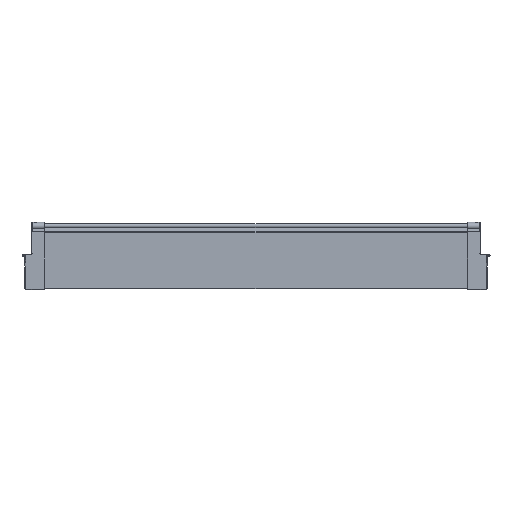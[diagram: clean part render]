
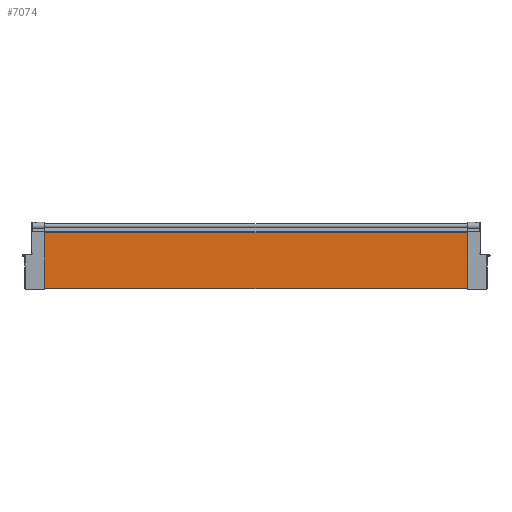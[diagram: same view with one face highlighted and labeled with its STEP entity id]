
A CAD part, top view. The second image highlights one B-rep face of the part: STEP entity #7074.
In plain terms, the highlighted planar face has unit normal (0, 0, 1).
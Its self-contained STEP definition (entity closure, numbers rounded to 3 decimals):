
#1766 = DIRECTION ( 'NONE',  ( 0., -1., 0. ) ) ;
#1767 = VECTOR ( 'NONE', #1766, 1000. ) ;
#1768 = CARTESIAN_POINT ( 'NONE',  ( -868.3, 45.248, 4.05 ) ) ;
#1769 = DIRECTION ( 'NONE',  ( 0., 1., 0. ) ) ;
#1770 = DIRECTION ( 'NONE',  ( 0., 0., -1. ) ) ;
#1771 = CARTESIAN_POINT ( 'NONE',  ( 89.157, 45.248, 4.05 ) ) ;
#1772 = AXIS2_PLACEMENT_3D ( 'NONE', #1771, #1770, #1769 ) ;
#1773 = PLANE ( 'NONE',  #1772 ) ;
#1774 = LINE ( 'NONE', #1768, #1767 ) ;
#1775 = FACE_OUTER_BOUND ( 'NONE', #7075, .T. ) ;
#1776 = DIRECTION ( 'NONE',  ( -1., 0., 0. ) ) ;
#1777 = VECTOR ( 'NONE', #1776, 1000. ) ;
#1778 = CARTESIAN_POINT ( 'NONE',  ( 89.157, 45.248, 4.05 ) ) ;
#1779 = LINE ( 'NONE', #1778, #1777 ) ;
#1803 = CARTESIAN_POINT ( 'NONE',  ( -868.3, 45.248, 4.05 ) ) ;
#1822 = DIRECTION ( 'NONE',  ( -1., 0., 0. ) ) ;
#1823 = VECTOR ( 'NONE', #1822, 1000. ) ;
#1824 = CARTESIAN_POINT ( 'NONE',  ( 89.157, -64.725, 4.05 ) ) ;
#1825 = LINE ( 'NONE', #1824, #1823 ) ;
#1826 = CARTESIAN_POINT ( 'NONE',  ( -868.3, -64.725, 4.05 ) ) ;
#5359 = CARTESIAN_POINT ( 'NONE',  ( -38.8, 45.248, 4.05 ) ) ;
#5480 = CARTESIAN_POINT ( 'NONE',  ( -38.8, -64.725, 4.05 ) ) ;
#5566 = DIRECTION ( 'NONE',  ( 0., -1., 0. ) ) ;
#5567 = VECTOR ( 'NONE', #5566, 1000. ) ;
#5568 = CARTESIAN_POINT ( 'NONE',  ( -38.8, 45.248, 4.05 ) ) ;
#5569 = LINE ( 'NONE', #5568, #5567 ) ;
#7073 = EDGE_CURVE ( 'NONE', #8206, #7096, #1779, .T. ) ;
#7074 = ADVANCED_FACE ( 'NONE', ( #1775 ), #1773, .F. ) ;
#7075 = EDGE_LOOP ( 'NONE', ( #7076, #7077, #7078, #7081 ) ) ;
#7076 = ORIENTED_EDGE ( 'NONE', *, *, #8236, .F. ) ;
#7077 = ORIENTED_EDGE ( 'NONE', *, *, #7073, .T. ) ;
#7078 = ORIENTED_EDGE ( 'NONE', *, *, #7079, .T. ) ;
#7079 = EDGE_CURVE ( 'NONE', #7096, #7080, #1774, .T. ) ;
#7080 = VERTEX_POINT ( 'NONE', #1826 ) ;
#7081 = ORIENTED_EDGE ( 'NONE', *, *, #7082, .F. ) ;
#7082 = EDGE_CURVE ( 'NONE', #8235, #7080, #1825, .T. ) ;
#7096 = VERTEX_POINT ( 'NONE', #1803 ) ;
#8206 = VERTEX_POINT ( 'NONE', #5359 ) ;
#8235 = VERTEX_POINT ( 'NONE', #5480 ) ;
#8236 = EDGE_CURVE ( 'NONE', #8206, #8235, #5569, .T. ) ;
